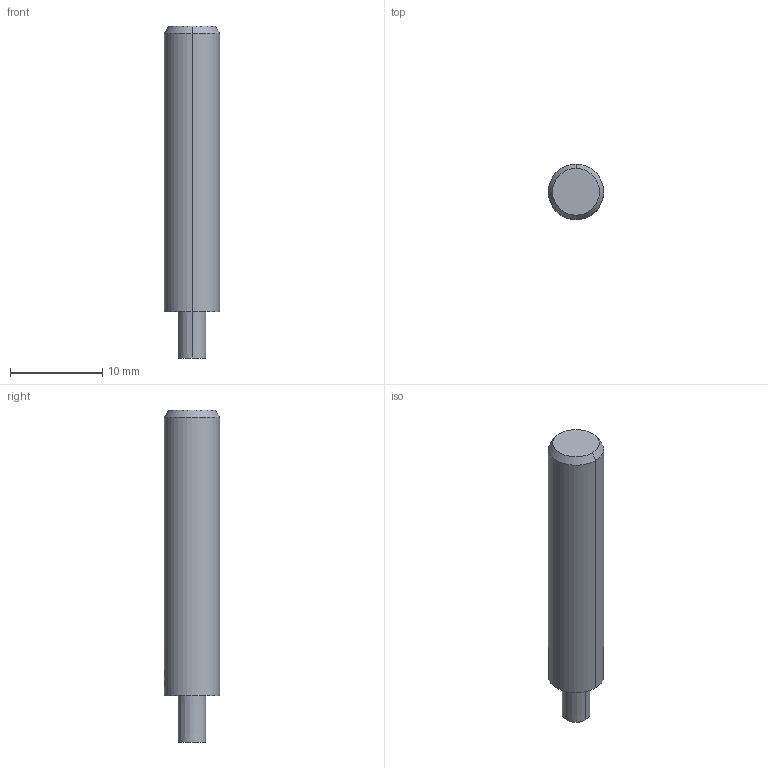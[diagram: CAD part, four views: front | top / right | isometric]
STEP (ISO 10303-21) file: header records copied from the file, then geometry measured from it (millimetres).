
FILE_DESCRIPTION(('no description'),'unknown implementation level');
FILE_NAME('solidWx2d3hT1g5HPNjPRHe9yMOt5wbU_1.STP',' ',('CIMSOURCE GmbH'),('CADClick - KiM GmbH - www.kimweb.de'),'unknown preprocess','ACIS','unknown authorization');
FILE_SCHEMA(('automotive_design'));
Length unit declared in the file: millimetre
Products named in the file (2): NOCUT; CUT
Bounding box: 6 x 6 x 36 mm (x, y, z)
Volume: 908.4 mm3; surface area: 696.2 mm2
Topology: 2 solids, 2 shells, 23 faces, 55 edges, 36 vertices
Faces by surface type: cylinder 10, plane 9, cone 4
Entity records: 1560 total; most frequent: CARTESIAN_POINT 336, STYLED_ITEM 116, PRESENTATION_STYLE_ASSIGNMENT 116, COLOUR_RGB 116, DIRECTION 115, ORIENTED_EDGE 110, EDGE_CURVE 55, CURVE_STYLE 55
